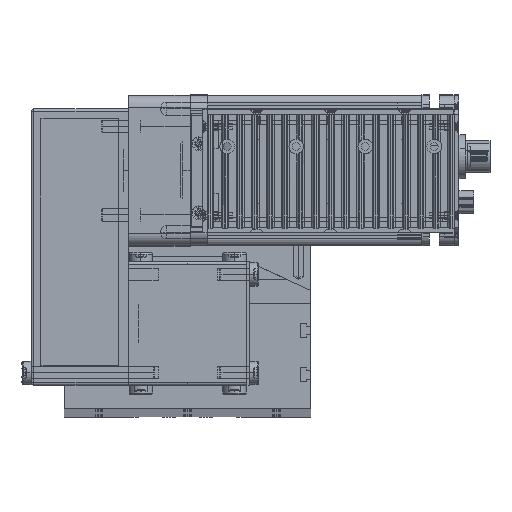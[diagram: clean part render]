
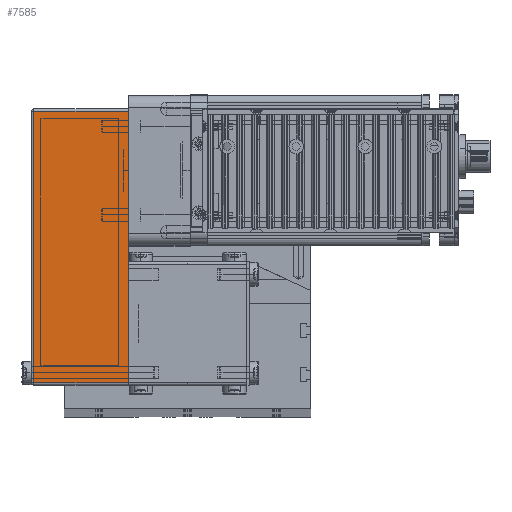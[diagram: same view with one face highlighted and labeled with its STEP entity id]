
A CAD part, top view. The second image highlights one B-rep face of the part: STEP entity #7585.
In plain terms, the highlighted planar face has unit normal (0, 0, 1) as drawn and (0, -1, 0) by its records, which use the part's own axes.
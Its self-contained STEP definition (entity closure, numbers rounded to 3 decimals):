
#7356 = EDGE_CURVE ( 'NONE', #7395, #7397, #38822, .T. ) ;
#7395 = VERTEX_POINT ( 'NONE', #38842 ) ;
#7397 = VERTEX_POINT ( 'NONE', #38844 ) ;
#7469 = VERTEX_POINT ( 'NONE', #38898 ) ;
#7483 = VERTEX_POINT ( 'NONE', #38895 ) ;
#7490 = EDGE_CURVE ( 'NONE', #7469, #7483, #38900, .T. ) ;
#7574 = EDGE_CURVE ( 'NONE', #7395, #7483, #39051, .T. ) ;
#7577 = EDGE_CURVE ( 'NONE', #7397, #7469, #39042, .T. ) ;
#7579 = EDGE_LOOP ( 'NONE', ( #7589, #7593, #7583, #7680 ) ) ;
#7583 = ORIENTED_EDGE ( 'NONE', *, *, #7490, .F. ) ;
#7585 = ADVANCED_FACE ( 'NONE', ( #39034 ), #39095, .F. ) ;
#7589 = ORIENTED_EDGE ( 'NONE', *, *, #7356, .F. ) ;
#7593 = ORIENTED_EDGE ( 'NONE', *, *, #7574, .T. ) ;
#7680 = ORIENTED_EDGE ( 'NONE', *, *, #7577, .F. ) ;
#38818 = DIRECTION ( 'NONE',  ( 0., 0., 1. ) ) ;
#38819 = VECTOR ( 'NONE', #38818, 1000. ) ;
#38821 = CARTESIAN_POINT ( 'NONE',  ( -49., -25., 39.5 ) ) ;
#38822 = LINE ( 'NONE', #38821, #38819 ) ;
#38842 = CARTESIAN_POINT ( 'NONE',  ( -49., -25., 0. ) ) ;
#38844 = CARTESIAN_POINT ( 'NONE',  ( -49., -25., 38.5 ) ) ;
#38895 = CARTESIAN_POINT ( 'NONE',  ( 61., -25., 0. ) ) ;
#38898 = CARTESIAN_POINT ( 'NONE',  ( 61., -25., 38.5 ) ) ;
#38899 = CARTESIAN_POINT ( 'NONE',  ( 61., -25., 39.5 ) ) ;
#38900 = LINE ( 'NONE', #38899, #38944 ) ;
#38943 = DIRECTION ( 'NONE',  ( 0., 0., -1. ) ) ;
#38944 = VECTOR ( 'NONE', #38943, 1000. ) ;
#39034 = FACE_OUTER_BOUND ( 'NONE', #7579, .T. ) ;
#39037 = CARTESIAN_POINT ( 'NONE',  ( -50., -25., 39.5 ) ) ;
#39042 = LINE ( 'NONE', #39098, #39097 ) ;
#39046 = AXIS2_PLACEMENT_3D ( 'NONE', #39037, #39092, #39091 ) ;
#39051 = LINE ( 'NONE', #39105, #39104 ) ;
#39091 = DIRECTION ( 'NONE',  ( 0., 0., 1. ) ) ;
#39092 = DIRECTION ( 'NONE',  ( 0., 1., 0. ) ) ;
#39095 = PLANE ( 'NONE',  #39046 ) ;
#39096 = DIRECTION ( 'NONE',  ( 1., 0., 0. ) ) ;
#39097 = VECTOR ( 'NONE', #39096, 1000. ) ;
#39098 = CARTESIAN_POINT ( 'NONE',  ( -50., -25., 38.5 ) ) ;
#39103 = DIRECTION ( 'NONE',  ( 1., 0., 0. ) ) ;
#39104 = VECTOR ( 'NONE', #39103, 1000. ) ;
#39105 = CARTESIAN_POINT ( 'NONE',  ( -50., -25., 0. ) ) ;
